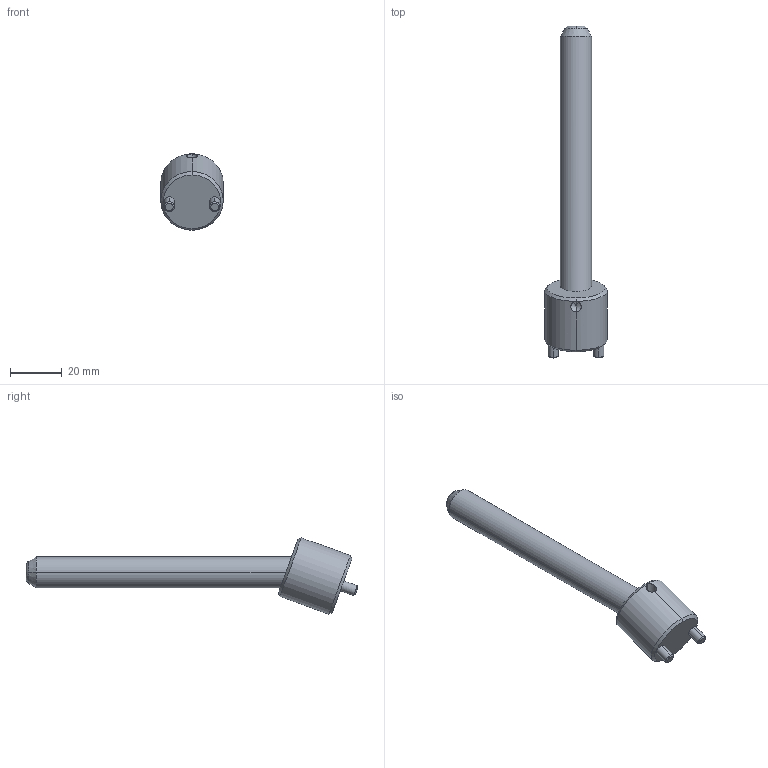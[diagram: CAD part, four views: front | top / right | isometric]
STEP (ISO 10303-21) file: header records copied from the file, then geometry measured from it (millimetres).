
FILE_DESCRIPTION (( 'STEP AP203' ), '1' );
FILE_NAME ('CI2012100.STEP', '2023-12-07T23:07:23', ( '' ), ( '' ), 'SwSTEP 2.0', 'SolidWorks 2017', '' );
FILE_SCHEMA (( 'CONFIG_CONTROL_DESIGN' ));
Length unit declared in the file: millimetre
Products named in the file (3): CP12100; CI2012100; CS2012
Assembly tree (2 placements, depth 2):
  CI2012100
    CP12100
    CS2012
Bounding box: 24 x 127.68 x 29.39 mm (x, y, z)
Volume: 21027.9 mm3; surface area: 7956.7 mm2
Topology: 2 solids, 2 shells, 37 faces, 80 edges, 47 vertices
Faces by surface type: cylinder 14, cone 14, plane 7, bspline 2
Entity records: 1615 total; most frequent: CARTESIAN_POINT 521, DIRECTION 182, ORIENTED_EDGE 156, EDGE_CURVE 78, AXIS2_PLACEMENT_3D 76, VERTEX_POINT 47, EDGE_LOOP 41, FACE_OUTER_BOUND 37
